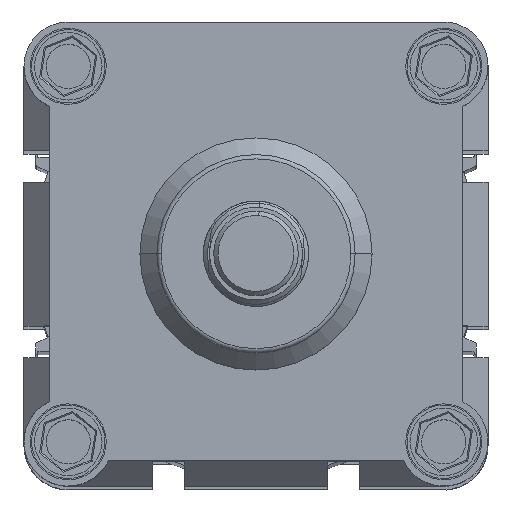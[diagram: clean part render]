
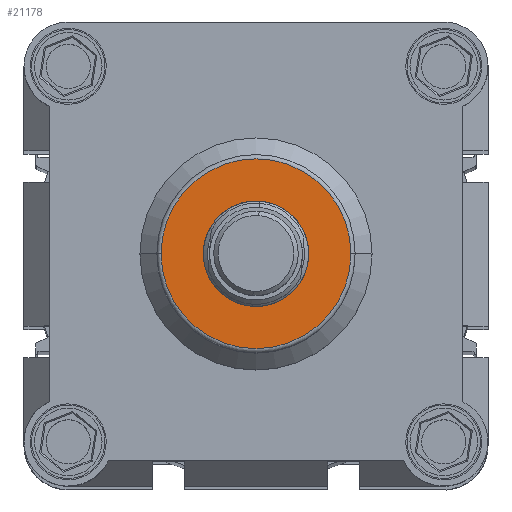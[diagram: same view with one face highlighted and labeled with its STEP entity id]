
A CAD part, top view. The second image highlights one B-rep face of the part: STEP entity #21178.
In plain terms, the highlighted planar face has unit normal (0, 0, 1).
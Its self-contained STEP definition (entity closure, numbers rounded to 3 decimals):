
#1050 = CIRCLE ( 'NONE', #14526, 12.5 ) ;
#1164 = DIRECTION ( 'NONE',  ( 0., 0., 1. ) ) ;
#1372 = DIRECTION ( 'NONE',  ( 0., 0., 1. ) ) ;
#2014 = AXIS2_PLACEMENT_3D ( 'NONE', #17063, #6296, #14960 ) ;
#3086 = DIRECTION ( 'NONE',  ( 1., 0., 0. ) ) ;
#3175 = FACE_OUTER_BOUND ( 'NONE', #14394, .T. ) ;
#3227 = DIRECTION ( 'NONE',  ( 0., 0., 1. ) ) ;
#5274 = CARTESIAN_POINT ( 'NONE',  ( 55., 55., 80. ) ) ;
#5836 = EDGE_CURVE ( 'NONE', #19384, #19128, #1050, .T. ) ;
#5841 = VERTEX_POINT ( 'NONE', #10667 ) ;
#6296 = DIRECTION ( 'NONE',  ( 0., 0., 1. ) ) ;
#6846 = ORIENTED_EDGE ( 'NONE', *, *, #16920, .T. ) ;
#6951 = CARTESIAN_POINT ( 'NONE',  ( 55., 55., 80. ) ) ;
#7068 = FACE_BOUND ( 'NONE', #9374, .T. ) ;
#9374 = EDGE_LOOP ( 'NONE', ( #18689, #10443 ) ) ;
#10028 = EDGE_CURVE ( 'NONE', #19128, #19384, #21301, .T. ) ;
#10443 = ORIENTED_EDGE ( 'NONE', *, *, #5836, .F. ) ;
#10667 = CARTESIAN_POINT ( 'NONE',  ( 77.5, 55., 80. ) ) ;
#11065 = AXIS2_PLACEMENT_3D ( 'NONE', #5274, #12522, #23069 ) ;
#12522 = DIRECTION ( 'NONE',  ( 0., 0., 1. ) ) ;
#12957 = CIRCLE ( 'NONE', #13076, 22.5 ) ;
#13076 = AXIS2_PLACEMENT_3D ( 'NONE', #22553, #1164, #3086 ) ;
#13335 = CARTESIAN_POINT ( 'NONE',  ( 42.5, 55., 80. ) ) ;
#14394 = EDGE_LOOP ( 'NONE', ( #6846, #19676 ) ) ;
#14526 = AXIS2_PLACEMENT_3D ( 'NONE', #6951, #3227, #23162 ) ;
#14843 = CIRCLE ( 'NONE', #23122, 22.5 ) ;
#14960 = DIRECTION ( 'NONE',  ( 1., 0., 0. ) ) ;
#15538 = DIRECTION ( 'NONE',  ( 1., 0., 0. ) ) ;
#15612 = EDGE_CURVE ( 'NONE', #16699, #5841, #12957, .T. ) ;
#16699 = VERTEX_POINT ( 'NONE', #19881 ) ;
#16920 = EDGE_CURVE ( 'NONE', #5841, #16699, #14843, .T. ) ;
#17063 = CARTESIAN_POINT ( 'NONE',  ( 55., 55., 80. ) ) ;
#18449 = CARTESIAN_POINT ( 'NONE',  ( 67.5, 55., 80. ) ) ;
#18689 = ORIENTED_EDGE ( 'NONE', *, *, #10028, .F. ) ;
#19128 = VERTEX_POINT ( 'NONE', #18449 ) ;
#19384 = VERTEX_POINT ( 'NONE', #13335 ) ;
#19388 = PLANE ( 'NONE',  #11065 ) ;
#19676 = ORIENTED_EDGE ( 'NONE', *, *, #15612, .T. ) ;
#19881 = CARTESIAN_POINT ( 'NONE',  ( 32.5, 55., 80. ) ) ;
#21178 = ADVANCED_FACE ( 'NONE', ( #7068, #3175 ), #19388, .T. ) ;
#21301 = CIRCLE ( 'NONE', #2014, 12.5 ) ;
#22553 = CARTESIAN_POINT ( 'NONE',  ( 55., 55., 80. ) ) ;
#22598 = CARTESIAN_POINT ( 'NONE',  ( 55., 55., 80. ) ) ;
#23069 = DIRECTION ( 'NONE',  ( 1., 0., 0. ) ) ;
#23122 = AXIS2_PLACEMENT_3D ( 'NONE', #22598, #1372, #15538 ) ;
#23162 = DIRECTION ( 'NONE',  ( 1., 0., 0. ) ) ;
